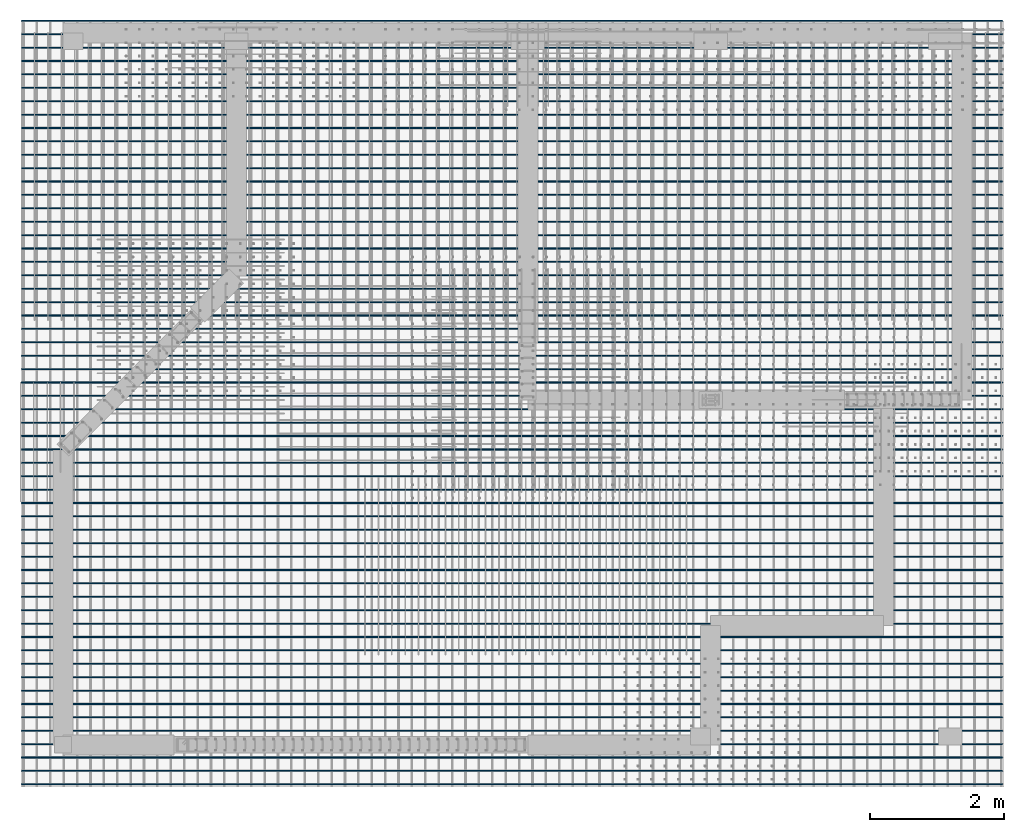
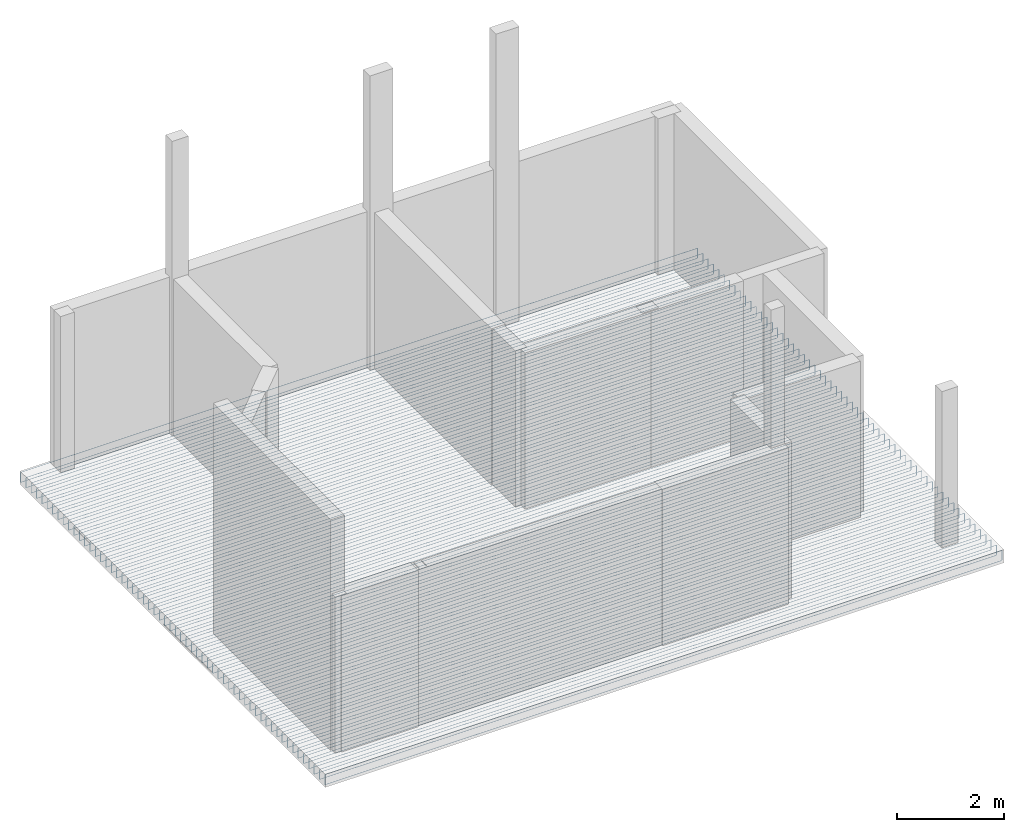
# One storey, part 4 of 8: 1 reinforcing bar.
"""IFC4 building model written with IfcOpenShell, lengths in metres."""

from ifc_helpers import new_model, entity, si_unit, origin_with_axes, place, context, project, spatial, source, transform, mapped, element, save


model = new_model("IFC4")

# Units and contexts
model_context = context("Model", 3, precision=1e-05, world=origin_with_axes())
ifc_project = project(units=[si_unit("LENGTHUNIT", "METRE"), si_unit("AREAUNIT", "SQUARE_METRE"), si_unit("VOLUMEUNIT", "CUBIC_METRE"), si_unit("MASSUNIT", "GRAM", prefix="KILO"), si_unit("TIMEUNIT", "SECOND"), si_unit("PLANEANGLEUNIT", "RADIAN"), si_unit("SOLIDANGLEUNIT", "STERADIAN"), si_unit("THERMODYNAMICTEMPERATUREUNIT", "DEGREE_CELSIUS")], contexts=[model_context])

# Site, building, storey
placement_1 = place(None, origin_with_axes())
site = spatial("IfcSite", under=ifc_project, at=placement_1, Name="Italia", CompositionType="ELEMENT")
building = spatial("IfcBuilding", under=site, at=placement_1, Name="Abitazione", CompositionType="ELEMENT")
storey = spatial("IfcBuildingStorey", under=building, at=placement_1, Name="Storey 0", CompositionType="ELEMENT", Elevation=0.0)

# Reinforcing bar
shared_shape = source(origin_with_axes(), model_context, "Body", "AdvancedSweptSolid", [
    entity("IfcSweptDiskSolid", entity("IfcIndexedPolyCurve", entity("IfcCartesianPointList3D", [[0.572, 0.194, -0.246], [0.572, 0.194, -0.04], [0.572761, 0.194, -0.0361732], [0.574929, 0.194, -0.0329289], [0.578173, 0.194, -0.0307612], [0.582, 0.194, -0.03], [15.206, 0.194, -0.03], [15.2098, 0.194, -0.0307612], [15.2131, 0.194, -0.0329289], [15.2152, 0.194, -0.0361732], [15.216, 0.194, -0.04], [15.216, 0.194, -0.246]]), [entity("IfcLineIndex", [1, 2]), entity("IfcLineIndex", [2, 3]), entity("IfcLineIndex", [3, 4]), entity("IfcLineIndex", [4, 5]), entity("IfcLineIndex", [5, 6]), entity("IfcLineIndex", [6, 7]), entity("IfcLineIndex", [7, 8]), entity("IfcLineIndex", [8, 9]), entity("IfcLineIndex", [9, 10]), entity("IfcLineIndex", [10, 11]), entity("IfcLineIndex", [11, 12])], False), 0.006),
])
placement_2 = place(placement_1, origin_with_axes())
reinforcing_bar_placement = place(placement_2, origin_with_axes())
element("IfcReinforcingBar", 1, at=reinforcing_bar_placement, inside=storey, BarLength=15.0672, CrossSectionArea=0.0001131, NominalDiameter=0.012, context=model_context, shape_type="MappedRepresentation", body=[
    mapped(shared_shape, transform((0.0, 6.0, 0.0), x_axis=(1.0, 0.0, 0.0), y_axis=(0.0, 1.0, 0.0), z_axis=(0.0, 0.0, 1.0), scale=1.0)),
    mapped(shared_shape, transform((0.0, 5.8, 0.0), x_axis=(1.0, 0.0, 0.0), y_axis=(0.0, 1.0, 0.0), z_axis=(0.0, 0.0, 1.0), scale=1.0)),
    mapped(shared_shape, transform((0.0, 6.2, 0.0), x_axis=(1.0, 0.0, 0.0), y_axis=(0.0, 1.0, 0.0), z_axis=(0.0, 0.0, 1.0), scale=1.0)),
    mapped(shared_shape, transform((0.0, 8.0, 0.0), x_axis=(1.0, 0.0, 0.0), y_axis=(0.0, 1.0, 0.0), z_axis=(0.0, 0.0, 1.0), scale=1.0)),
    mapped(shared_shape, transform((0.0, 6.4, 0.0), x_axis=(1.0, 0.0, 0.0), y_axis=(0.0, 1.0, 0.0), z_axis=(0.0, 0.0, 1.0), scale=1.0)),
    mapped(shared_shape, transform((0.0, 8.2, 0.0), x_axis=(1.0, 0.0, 0.0), y_axis=(0.0, 1.0, 0.0), z_axis=(0.0, 0.0, 1.0), scale=1.0)),
    mapped(shared_shape, transform((0.0, 7.2, 0.0), x_axis=(1.0, 0.0, 0.0), y_axis=(0.0, 1.0, 0.0), z_axis=(0.0, 0.0, 1.0), scale=1.0)),
    mapped(shared_shape, transform((0.0, 8.4, 0.0), x_axis=(1.0, 0.0, 0.0), y_axis=(0.0, 1.0, 0.0), z_axis=(0.0, 0.0, 1.0), scale=1.0)),
    mapped(shared_shape, transform((0.0, 7.4, 0.0), x_axis=(1.0, 0.0, 0.0), y_axis=(0.0, 1.0, 0.0), z_axis=(0.0, 0.0, 1.0), scale=1.0)),
    mapped(shared_shape, transform((0.0, 7.8, 0.0), x_axis=(1.0, 0.0, 0.0), y_axis=(0.0, 1.0, 0.0), z_axis=(0.0, 0.0, 1.0), scale=1.0)),
    mapped(shared_shape, transform((0.0, 7.6, 0.0), x_axis=(1.0, 0.0, 0.0), y_axis=(0.0, 1.0, 0.0), z_axis=(0.0, 0.0, 1.0), scale=1.0)),
    mapped(shared_shape, transform((0.0, 6.6, 0.0), x_axis=(1.0, 0.0, 0.0), y_axis=(0.0, 1.0, 0.0), z_axis=(0.0, 0.0, 1.0), scale=1.0)),
    mapped(shared_shape, transform((0.0, 7.0, 0.0), x_axis=(1.0, 0.0, 0.0), y_axis=(0.0, 1.0, 0.0), z_axis=(0.0, 0.0, 1.0), scale=1.0)),
    mapped(shared_shape, transform((0.0, 6.8, 0.0), x_axis=(1.0, 0.0, 0.0), y_axis=(0.0, 1.0, 0.0), z_axis=(0.0, 0.0, 1.0), scale=1.0)),
    mapped(shared_shape, transform((0.0, 8.6, 0.0), x_axis=(1.0, 0.0, 0.0), y_axis=(0.0, 1.0, 0.0), z_axis=(0.0, 0.0, 1.0), scale=1.0)),
    mapped(shared_shape, transform((0.0, 9.0, 0.0), x_axis=(1.0, 0.0, 0.0), y_axis=(0.0, 1.0, 0.0), z_axis=(0.0, 0.0, 1.0), scale=1.0)),
    mapped(shared_shape, transform((0.0, 8.8, 0.0), x_axis=(1.0, 0.0, 0.0), y_axis=(0.0, 1.0, 0.0), z_axis=(0.0, 0.0, 1.0), scale=1.0)),
    mapped(shared_shape, transform((0.0, 9.2, 0.0), x_axis=(1.0, 0.0, 0.0), y_axis=(0.0, 1.0, 0.0), z_axis=(0.0, 0.0, 1.0), scale=1.0)),
    mapped(shared_shape, transform((0.0, 11.0, 0.0), x_axis=(1.0, 0.0, 0.0), y_axis=(0.0, 1.0, 0.0), z_axis=(0.0, 0.0, 1.0), scale=1.0)),
    mapped(shared_shape, transform((0.0, 10.8, 0.0), x_axis=(1.0, 0.0, 0.0), y_axis=(0.0, 1.0, 0.0), z_axis=(0.0, 0.0, 1.0), scale=1.0)),
    mapped(shared_shape, transform((0.0, 11.2, 0.0), x_axis=(1.0, 0.0, 0.0), y_axis=(0.0, 1.0, 0.0), z_axis=(0.0, 0.0, 1.0), scale=1.0)),
    mapped(shared_shape, transform((0.0, 10.2, 0.0), x_axis=(1.0, 0.0, 0.0), y_axis=(0.0, 1.0, 0.0), z_axis=(0.0, 0.0, 1.0), scale=1.0)),
    mapped(shared_shape, transform((0.0, 10.0, 0.0), x_axis=(1.0, 0.0, 0.0), y_axis=(0.0, 1.0, 0.0), z_axis=(0.0, 0.0, 1.0), scale=1.0)),
    mapped(shared_shape, transform((0.0, 10.4, 0.0), x_axis=(1.0, 0.0, 0.0), y_axis=(0.0, 1.0, 0.0), z_axis=(0.0, 0.0, 1.0), scale=1.0)),
    mapped(shared_shape, transform((0.0, 9.4, 0.0), x_axis=(1.0, 0.0, 0.0), y_axis=(0.0, 1.0, 0.0), z_axis=(0.0, 0.0, 1.0), scale=1.0)),
    mapped(shared_shape, transform((0.0, 10.6, 0.0), x_axis=(1.0, 0.0, 0.0), y_axis=(0.0, 1.0, 0.0), z_axis=(0.0, 0.0, 1.0), scale=1.0)),
    mapped(shared_shape, transform((0.0, 9.6, 0.0), x_axis=(1.0, 0.0, 0.0), y_axis=(0.0, 1.0, 0.0), z_axis=(0.0, 0.0, 1.0), scale=1.0)),
    mapped(shared_shape, transform((0.0, 11.4, 0.0), x_axis=(1.0, 0.0, 0.0), y_axis=(0.0, 1.0, 0.0), z_axis=(0.0, 0.0, 1.0), scale=1.0)),
    mapped(shared_shape, transform((0.0, 9.8, 0.0), x_axis=(1.0, 0.0, 0.0), y_axis=(0.0, 1.0, 0.0), z_axis=(0.0, 0.0, 1.0), scale=1.0)),
    mapped(shared_shape, transform((0.0, 0.0, 0.0), x_axis=(1.0, 0.0, 0.0), y_axis=(0.0, 1.0, 0.0), z_axis=(0.0, 0.0, 1.0), scale=1.0)),
    mapped(shared_shape, transform((0.0, 0.4, 0.0), x_axis=(1.0, 0.0, 0.0), y_axis=(0.0, 1.0, 0.0), z_axis=(0.0, 0.0, 1.0), scale=1.0)),
    mapped(shared_shape, transform((0.0, 0.2, 0.0), x_axis=(1.0, 0.0, 0.0), y_axis=(0.0, 1.0, 0.0), z_axis=(0.0, 0.0, 1.0), scale=1.0)),
    mapped(shared_shape, transform((0.0, 2.0, 0.0), x_axis=(1.0, 0.0, 0.0), y_axis=(0.0, 1.0, 0.0), z_axis=(0.0, 0.0, 1.0), scale=1.0)),
    mapped(shared_shape, transform((0.0, 2.4, 0.0), x_axis=(1.0, 0.0, 0.0), y_axis=(0.0, 1.0, 0.0), z_axis=(0.0, 0.0, 1.0), scale=1.0)),
    mapped(shared_shape, transform((0.0, 2.2, 0.0), x_axis=(1.0, 0.0, 0.0), y_axis=(0.0, 1.0, 0.0), z_axis=(0.0, 0.0, 1.0), scale=1.0)),
    mapped(shared_shape, transform((0.0, 1.2, 0.0), x_axis=(1.0, 0.0, 0.0), y_axis=(0.0, 1.0, 0.0), z_axis=(0.0, 0.0, 1.0), scale=1.0)),
    mapped(shared_shape, transform((0.0, 1.6, 0.0), x_axis=(1.0, 0.0, 0.0), y_axis=(0.0, 1.0, 0.0), z_axis=(0.0, 0.0, 1.0), scale=1.0)),
    mapped(shared_shape, transform((0.0, 1.4, 0.0), x_axis=(1.0, 0.0, 0.0), y_axis=(0.0, 1.0, 0.0), z_axis=(0.0, 0.0, 1.0), scale=1.0)),
    mapped(shared_shape, transform((0.0, 1.8, 0.0), x_axis=(1.0, 0.0, 0.0), y_axis=(0.0, 1.0, 0.0), z_axis=(0.0, 0.0, 1.0), scale=1.0)),
    mapped(shared_shape, transform((0.0, 0.8, 0.0), x_axis=(1.0, 0.0, 0.0), y_axis=(0.0, 1.0, 0.0), z_axis=(0.0, 0.0, 1.0), scale=1.0)),
    mapped(shared_shape, transform((0.0, 0.6, 0.0), x_axis=(1.0, 0.0, 0.0), y_axis=(0.0, 1.0, 0.0), z_axis=(0.0, 0.0, 1.0), scale=1.0)),
    mapped(shared_shape, transform((0.0, 1.0, 0.0), x_axis=(1.0, 0.0, 0.0), y_axis=(0.0, 1.0, 0.0), z_axis=(0.0, 0.0, 1.0), scale=1.0)),
    mapped(shared_shape, transform((0.0, 2.8, 0.0), x_axis=(1.0, 0.0, 0.0), y_axis=(0.0, 1.0, 0.0), z_axis=(0.0, 0.0, 1.0), scale=1.0)),
    mapped(shared_shape, transform((0.0, 2.6, 0.0), x_axis=(1.0, 0.0, 0.0), y_axis=(0.0, 1.0, 0.0), z_axis=(0.0, 0.0, 1.0), scale=1.0)),
    mapped(shared_shape, transform((0.0, 3.0, 0.0), x_axis=(1.0, 0.0, 0.0), y_axis=(0.0, 1.0, 0.0), z_axis=(0.0, 0.0, 1.0), scale=1.0)),
    mapped(shared_shape, transform((0.0, 4.8, 0.0), x_axis=(1.0, 0.0, 0.0), y_axis=(0.0, 1.0, 0.0), z_axis=(0.0, 0.0, 1.0), scale=1.0)),
    mapped(shared_shape, transform((0.0, 3.2, 0.0), x_axis=(1.0, 0.0, 0.0), y_axis=(0.0, 1.0, 0.0), z_axis=(0.0, 0.0, 1.0), scale=1.0)),
    mapped(shared_shape, transform((0.0, 5.0, 0.0), x_axis=(1.0, 0.0, 0.0), y_axis=(0.0, 1.0, 0.0), z_axis=(0.0, 0.0, 1.0), scale=1.0)),
    mapped(shared_shape, transform((0.0, 4.0, 0.0), x_axis=(1.0, 0.0, 0.0), y_axis=(0.0, 1.0, 0.0), z_axis=(0.0, 0.0, 1.0), scale=1.0)),
    mapped(shared_shape, transform((0.0, 5.2, 0.0), x_axis=(1.0, 0.0, 0.0), y_axis=(0.0, 1.0, 0.0), z_axis=(0.0, 0.0, 1.0), scale=1.0)),
    mapped(shared_shape, transform((0.0, 4.2, 0.0), x_axis=(1.0, 0.0, 0.0), y_axis=(0.0, 1.0, 0.0), z_axis=(0.0, 0.0, 1.0), scale=1.0)),
    mapped(shared_shape, transform((0.0, 4.6, 0.0), x_axis=(1.0, 0.0, 0.0), y_axis=(0.0, 1.0, 0.0), z_axis=(0.0, 0.0, 1.0), scale=1.0)),
    mapped(shared_shape, transform((0.0, 4.4, 0.0), x_axis=(1.0, 0.0, 0.0), y_axis=(0.0, 1.0, 0.0), z_axis=(0.0, 0.0, 1.0), scale=1.0)),
    mapped(shared_shape, transform((0.0, 3.4, 0.0), x_axis=(1.0, 0.0, 0.0), y_axis=(0.0, 1.0, 0.0), z_axis=(0.0, 0.0, 1.0), scale=1.0)),
    mapped(shared_shape, transform((0.0, 3.8, 0.0), x_axis=(1.0, 0.0, 0.0), y_axis=(0.0, 1.0, 0.0), z_axis=(0.0, 0.0, 1.0), scale=1.0)),
    mapped(shared_shape, transform((0.0, 3.6, 0.0), x_axis=(1.0, 0.0, 0.0), y_axis=(0.0, 1.0, 0.0), z_axis=(0.0, 0.0, 1.0), scale=1.0)),
    mapped(shared_shape, transform((0.0, 5.4, 0.0), x_axis=(1.0, 0.0, 0.0), y_axis=(0.0, 1.0, 0.0), z_axis=(0.0, 0.0, 1.0), scale=1.0)),
    mapped(shared_shape, transform((0.0, 6.2, -0.3), x_axis=(1.0, 0.0, 0.0), y_axis=(0.0, -1.0, 0.0), z_axis=(0.0, 0.0, -1.0), scale=1.0)),
    mapped(shared_shape, transform((0.0, 5.6, 0.0), x_axis=(1.0, 0.0, 0.0), y_axis=(0.0, 1.0, 0.0), z_axis=(0.0, 0.0, 1.0), scale=1.0)),
    mapped(shared_shape, transform((0.0, 6.4, -0.3), x_axis=(1.0, 0.0, 0.0), y_axis=(0.0, -1.0, 0.0), z_axis=(0.0, 0.0, -1.0), scale=1.0)),
    mapped(shared_shape, transform((0.0, 8.2, -0.3), x_axis=(1.0, 0.0, 0.0), y_axis=(0.0, -1.0, 0.0), z_axis=(0.0, 0.0, -1.0), scale=1.0)),
    mapped(shared_shape, transform((0.0, 8.0, -0.3), x_axis=(1.0, 0.0, 0.0), y_axis=(0.0, -1.0, 0.0), z_axis=(0.0, 0.0, -1.0), scale=1.0)),
    mapped(shared_shape, transform((0.0, 8.39999, -0.3), x_axis=(1.0, 0.0, 0.0), y_axis=(0.0, -1.0, 0.0), z_axis=(0.0, 0.0, -1.0), scale=1.0)),
    mapped(shared_shape, transform((0.0, 7.4, -0.3), x_axis=(1.0, 0.0, 0.0), y_axis=(0.0, -1.0, 0.0), z_axis=(0.0, 0.0, -1.0), scale=1.0)),
    mapped(shared_shape, transform((0.0, 7.2, -0.3), x_axis=(1.0, 0.0, 0.0), y_axis=(0.0, -1.0, 0.0), z_axis=(0.0, 0.0, -1.0), scale=1.0)),
    mapped(shared_shape, transform((0.0, 7.6, -0.3), x_axis=(1.0, 0.0, 0.0), y_axis=(0.0, -1.0, 0.0), z_axis=(0.0, 0.0, -1.0), scale=1.0)),
    mapped(shared_shape, transform((0.0, 6.6, -0.3), x_axis=(1.0, 0.0, 0.0), y_axis=(0.0, -1.0, 0.0), z_axis=(0.0, 0.0, -1.0), scale=1.0)),
    mapped(shared_shape, transform((0.0, 7.8, -0.3), x_axis=(1.0, 0.0, 0.0), y_axis=(0.0, -1.0, 0.0), z_axis=(0.0, 0.0, -1.0), scale=1.0)),
    mapped(shared_shape, transform((0.0, 6.8, -0.3), x_axis=(1.0, 0.0, 0.0), y_axis=(0.0, -1.0, 0.0), z_axis=(0.0, 0.0, -1.0), scale=1.0)),
    mapped(shared_shape, transform((0.0, 8.59999, -0.3), x_axis=(1.0, 0.0, 0.0), y_axis=(0.0, -1.0, 0.0), z_axis=(0.0, 0.0, -1.0), scale=1.0)),
    mapped(shared_shape, transform((0.0, 7.0, -0.3), x_axis=(1.0, 0.0, 0.0), y_axis=(0.0, -1.0, 0.0), z_axis=(0.0, 0.0, -1.0), scale=1.0)),
    mapped(shared_shape, transform((0.0, 8.79999, -0.3), x_axis=(1.0, 0.0, 0.0), y_axis=(0.0, -1.0, 0.0), z_axis=(0.0, 0.0, -1.0), scale=1.0)),
    mapped(shared_shape, transform((0.0, 9.19999, -0.3), x_axis=(1.0, 0.0, 0.0), y_axis=(0.0, -1.0, 0.0), z_axis=(0.0, 0.0, -1.0), scale=1.0)),
    mapped(shared_shape, transform((0.0, 8.99999, -0.3), x_axis=(1.0, 0.0, 0.0), y_axis=(0.0, -1.0, 0.0), z_axis=(0.0, 0.0, -1.0), scale=1.0)),
    mapped(shared_shape, transform((0.0, 10.8, -0.3), x_axis=(1.0, 0.0, 0.0), y_axis=(0.0, -1.0, 0.0), z_axis=(0.0, 0.0, -1.0), scale=1.0)),
    mapped(shared_shape, transform((0.0, 11.2, -0.3), x_axis=(1.0, 0.0, 0.0), y_axis=(0.0, -1.0, 0.0), z_axis=(0.0, 0.0, -1.0), scale=1.0)),
    mapped(shared_shape, transform((0.0, 11.0, -0.3), x_axis=(1.0, 0.0, 0.0), y_axis=(0.0, -1.0, 0.0), z_axis=(0.0, 0.0, -1.0), scale=1.0)),
    mapped(shared_shape, transform((0.0, 9.99999, -0.3), x_axis=(1.0, 0.0, 0.0), y_axis=(0.0, -1.0, 0.0), z_axis=(0.0, 0.0, -1.0), scale=1.0)),
    mapped(shared_shape, transform((0.0, 10.4, -0.3), x_axis=(1.0, 0.0, 0.0), y_axis=(0.0, -1.0, 0.0), z_axis=(0.0, 0.0, -1.0), scale=1.0)),
    mapped(shared_shape, transform((0.0, 10.2, -0.3), x_axis=(1.0, 0.0, 0.0), y_axis=(0.0, -1.0, 0.0), z_axis=(0.0, 0.0, -1.0), scale=1.0)),
    mapped(shared_shape, transform((0.0, 10.6, -0.3), x_axis=(1.0, 0.0, 0.0), y_axis=(0.0, -1.0, 0.0), z_axis=(0.0, 0.0, -1.0), scale=1.0)),
    mapped(shared_shape, transform((0.0, 9.59999, -0.3), x_axis=(1.0, 0.0, 0.0), y_axis=(0.0, -1.0, 0.0), z_axis=(0.0, 0.0, -1.0), scale=1.0)),
    mapped(shared_shape, transform((0.0, 9.39999, -0.3), x_axis=(1.0, 0.0, 0.0), y_axis=(0.0, -1.0, 0.0), z_axis=(0.0, 0.0, -1.0), scale=1.0)),
    mapped(shared_shape, transform((0.0, 9.79999, -0.3), x_axis=(1.0, 0.0, 0.0), y_axis=(0.0, -1.0, 0.0), z_axis=(0.0, 0.0, -1.0), scale=1.0)),
    mapped(shared_shape, transform((0.0, 11.6, -0.3), x_axis=(1.0, 0.0, 0.0), y_axis=(0.0, -1.0, 0.0), z_axis=(0.0, 0.0, -1.0), scale=1.0)),
    mapped(shared_shape, transform((0.0, 11.4, -0.3), x_axis=(1.0, 0.0, 0.0), y_axis=(0.0, -1.0, 0.0), z_axis=(0.0, 0.0, -1.0), scale=1.0)),
    mapped(shared_shape, transform((0.0, 11.8, -0.3), x_axis=(1.0, 0.0, 0.0), y_axis=(0.0, -1.0, 0.0), z_axis=(0.0, 0.0, -1.0), scale=1.0)),
    mapped(shared_shape, transform((0.0, 2.0, -0.3), x_axis=(1.0, 0.0, 0.0), y_axis=(0.0, -1.0, 0.0), z_axis=(0.0, 0.0, -1.0), scale=1.0)),
    mapped(shared_shape, transform((0.0, 0.399999, -0.3), x_axis=(1.0, 0.0, 0.0), y_axis=(0.0, -1.0, 0.0), z_axis=(0.0, 0.0, -1.0), scale=1.0)),
    mapped(shared_shape, transform((0.0, 2.2, -0.3), x_axis=(1.0, 0.0, 0.0), y_axis=(0.0, -1.0, 0.0), z_axis=(0.0, 0.0, -1.0), scale=1.0)),
    mapped(shared_shape, transform((0.0, 1.2, -0.3), x_axis=(1.0, 0.0, 0.0), y_axis=(0.0, -1.0, 0.0), z_axis=(0.0, 0.0, -1.0), scale=1.0)),
    mapped(shared_shape, transform((0.0, 2.4, -0.3), x_axis=(1.0, 0.0, 0.0), y_axis=(0.0, -1.0, 0.0), z_axis=(0.0, 0.0, -1.0), scale=1.0)),
    mapped(shared_shape, transform((0.0, 1.4, -0.3), x_axis=(1.0, 0.0, 0.0), y_axis=(0.0, -1.0, 0.0), z_axis=(0.0, 0.0, -1.0), scale=1.0)),
    mapped(shared_shape, transform((0.0, 1.8, -0.3), x_axis=(1.0, 0.0, 0.0), y_axis=(0.0, -1.0, 0.0), z_axis=(0.0, 0.0, -1.0), scale=1.0)),
    mapped(shared_shape, transform((0.0, 1.6, -0.3), x_axis=(1.0, 0.0, 0.0), y_axis=(0.0, -1.0, 0.0), z_axis=(0.0, 0.0, -1.0), scale=1.0)),
    mapped(shared_shape, transform((0.0, 0.599999, -0.3), x_axis=(1.0, 0.0, 0.0), y_axis=(0.0, -1.0, 0.0), z_axis=(0.0, 0.0, -1.0), scale=1.0)),
    mapped(shared_shape, transform((0.0, 0.999999, -0.3), x_axis=(1.0, 0.0, 0.0), y_axis=(0.0, -1.0, 0.0), z_axis=(0.0, 0.0, -1.0), scale=1.0)),
    mapped(shared_shape, transform((0.0, 0.799999, -0.3), x_axis=(1.0, 0.0, 0.0), y_axis=(0.0, -1.0, 0.0), z_axis=(0.0, 0.0, -1.0), scale=1.0)),
    mapped(shared_shape, transform((0.0, 2.6, -0.3), x_axis=(1.0, 0.0, 0.0), y_axis=(0.0, -1.0, 0.0), z_axis=(0.0, 0.0, -1.0), scale=1.0)),
    mapped(shared_shape, transform((0.0, 3.0, -0.3), x_axis=(1.0, 0.0, 0.0), y_axis=(0.0, -1.0, 0.0), z_axis=(0.0, 0.0, -1.0), scale=1.0)),
    mapped(shared_shape, transform((0.0, 2.8, -0.3), x_axis=(1.0, 0.0, 0.0), y_axis=(0.0, -1.0, 0.0), z_axis=(0.0, 0.0, -1.0), scale=1.0)),
    mapped(shared_shape, transform((0.0, 3.2, -0.3), x_axis=(1.0, 0.0, 0.0), y_axis=(0.0, -1.0, 0.0), z_axis=(0.0, 0.0, -1.0), scale=1.0)),
    mapped(shared_shape, transform((0.0, 5.0, -0.3), x_axis=(1.0, 0.0, 0.0), y_axis=(0.0, -1.0, 0.0), z_axis=(0.0, 0.0, -1.0), scale=1.0)),
    mapped(shared_shape, transform((0.0, 4.8, -0.3), x_axis=(1.0, 0.0, 0.0), y_axis=(0.0, -1.0, 0.0), z_axis=(0.0, 0.0, -1.0), scale=1.0)),
    mapped(shared_shape, transform((0.0, 5.2, -0.3), x_axis=(1.0, 0.0, 0.0), y_axis=(0.0, -1.0, 0.0), z_axis=(0.0, 0.0, -1.0), scale=1.0)),
    mapped(shared_shape, transform((0.0, 4.2, -0.3), x_axis=(1.0, 0.0, 0.0), y_axis=(0.0, -1.0, 0.0), z_axis=(0.0, 0.0, -1.0), scale=1.0)),
    mapped(shared_shape, transform((0.0, 4.0, -0.3), x_axis=(1.0, 0.0, 0.0), y_axis=(0.0, -1.0, 0.0), z_axis=(0.0, 0.0, -1.0), scale=1.0)),
    mapped(shared_shape, transform((0.0, 4.4, -0.3), x_axis=(1.0, 0.0, 0.0), y_axis=(0.0, -1.0, 0.0), z_axis=(0.0, 0.0, -1.0), scale=1.0)),
    mapped(shared_shape, transform((0.0, 3.4, -0.3), x_axis=(1.0, 0.0, 0.0), y_axis=(0.0, -1.0, 0.0), z_axis=(0.0, 0.0, -1.0), scale=1.0)),
    mapped(shared_shape, transform((0.0, 4.6, -0.3), x_axis=(1.0, 0.0, 0.0), y_axis=(0.0, -1.0, 0.0), z_axis=(0.0, 0.0, -1.0), scale=1.0)),
    mapped(shared_shape, transform((0.0, 3.6, -0.3), x_axis=(1.0, 0.0, 0.0), y_axis=(0.0, -1.0, 0.0), z_axis=(0.0, 0.0, -1.0), scale=1.0)),
    mapped(shared_shape, transform((0.0, 5.4, -0.3), x_axis=(1.0, 0.0, 0.0), y_axis=(0.0, -1.0, 0.0), z_axis=(0.0, 0.0, -1.0), scale=1.0)),
    mapped(shared_shape, transform((0.0, 3.8, -0.3), x_axis=(1.0, 0.0, 0.0), y_axis=(0.0, -1.0, 0.0), z_axis=(0.0, 0.0, -1.0), scale=1.0)),
    mapped(shared_shape, transform((0.0, 5.6, -0.3), x_axis=(1.0, 0.0, 0.0), y_axis=(0.0, -1.0, 0.0), z_axis=(0.0, 0.0, -1.0), scale=1.0)),
    mapped(shared_shape, transform((0.0, 6.0, -0.3), x_axis=(1.0, 0.0, 0.0), y_axis=(0.0, -1.0, 0.0), z_axis=(0.0, 0.0, -1.0), scale=1.0)),
    mapped(shared_shape, transform((0.0, 5.8, -0.3), x_axis=(1.0, 0.0, 0.0), y_axis=(0.0, -1.0, 0.0), z_axis=(0.0, 0.0, -1.0), scale=1.0)),
])

save(model, "model.ifc")
